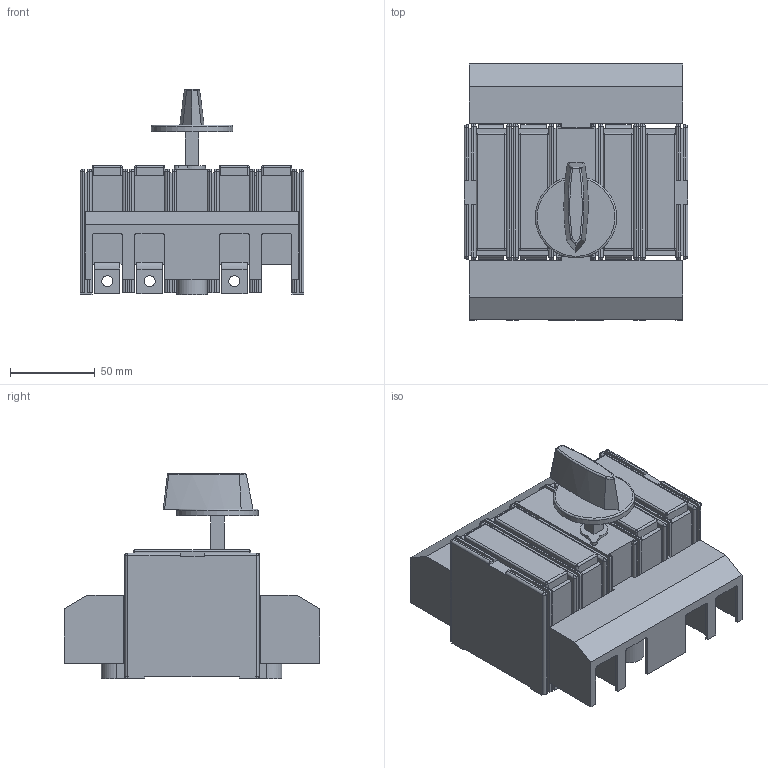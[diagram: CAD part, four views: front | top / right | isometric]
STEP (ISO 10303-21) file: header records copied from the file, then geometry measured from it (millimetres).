
FILE_DESCRIPTION(/* description */ (''),/* implementation_level */ '2;1');
FILE_NAME(/* name */ 'RA100 P3 C-R z oslonka zaciskow.stp',/* time_stamp */ '2021-08-17T14:38:18+02:00',/* author */ (''),/* organization */ (''),/* preprocessor_version */ 'ST-DEVELOPER v18.1',/* originating_system */ 'SIEMENS PLM Software NX 1965',/* authorisation */ '');
FILE_SCHEMA (('AUTOMOTIVE_DESIGN { 1 0 10303 214 3 1 1 1 }'));
Length unit declared in the file: millimetre
Products named in the file (1): RA100 P3 C-R z oslonka zaciskow
Bounding box: 132 x 151.03 x 121 mm (x, y, z)
Volume: 712960.4 mm3; surface area: 133632.1 mm2
Topology: 1 solids, 1 shells, 508 faces, 1381 edges, 845 vertices
Faces by surface type: plane 312, cylinder 147, sphere 41, bspline 7, torus 1
Full cylindrical faces by diameter (mm): 5.8 x2, 6.5 x6, 10 x2, 11.5 x2, 48 x1
Entity records: 15543 total; most frequent: CARTESIAN_POINT 2917, ORIENTED_EDGE 2634, DIRECTION 2592, EDGE_CURVE 1317, LINE 996, VECTOR 996, VERTEX_POINT 836, AXIS2_PLACEMENT_3D 798
